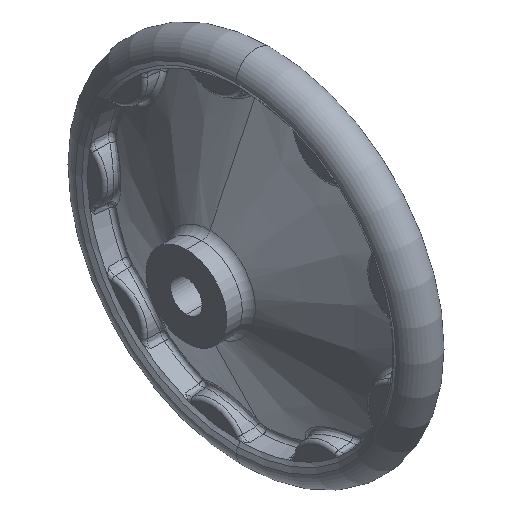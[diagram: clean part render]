
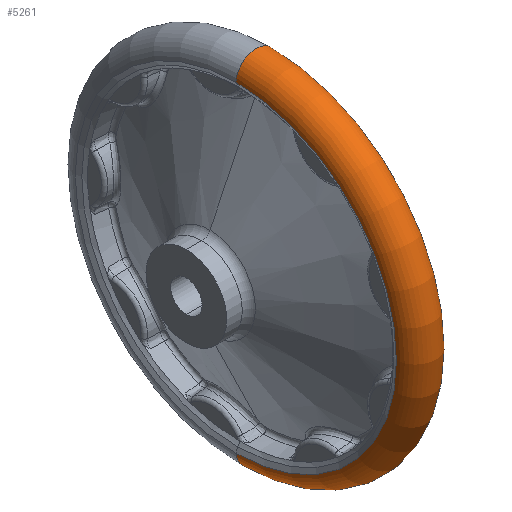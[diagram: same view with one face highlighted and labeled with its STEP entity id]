
A CAD part, isometric view. The second image highlights one B-rep face of the part: STEP entity #5261.
In plain terms, the highlighted toroidal (fillet/blend) face has major radius 71 mm and minor radius 9 mm.
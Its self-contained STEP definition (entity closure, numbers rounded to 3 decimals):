
#230 = DIRECTION ( 'NONE',  ( 0., 1., 0. ) ) ;
#539 = DIRECTION ( 'NONE',  ( 0., -1., 0. ) ) ;
#547 = ORIENTED_EDGE ( 'NONE', *, *, #2757, .T. ) ;
#584 = EDGE_CURVE ( 'NONE', #2185, #1697, #1745, .T. ) ;
#710 = DIRECTION ( 'NONE',  ( -1., 0., 0. ) ) ;
#777 = DIRECTION ( 'NONE',  ( 0., 0., 1. ) ) ;
#946 = EDGE_CURVE ( 'NONE', #2788, #1697, #1751, .T. ) ;
#1158 = CIRCLE ( 'NONE', #4950, 9. ) ;
#1499 = CARTESIAN_POINT ( 'NONE',  ( 40., 0., -71. ) ) ;
#1537 = FACE_OUTER_BOUND ( 'NONE', #4890, .T. ) ;
#1697 = VERTEX_POINT ( 'NONE', #4506 ) ;
#1745 = CIRCLE ( 'NONE', #3044, 9. ) ;
#1751 = CIRCLE ( 'NONE', #3175, 71.5 ) ;
#1877 = ORIENTED_EDGE ( 'NONE', *, *, #946, .F. ) ;
#1937 = CARTESIAN_POINT ( 'NONE',  ( 22.014, 0., 0. ) ) ;
#1972 = AXIS2_PLACEMENT_3D ( 'NONE', #5859, #710, #777 ) ;
#2185 = VERTEX_POINT ( 'NONE', #6151 ) ;
#2244 = ORIENTED_EDGE ( 'NONE', *, *, #5100, .F. ) ;
#2757 = EDGE_CURVE ( 'NONE', #6204, #2185, #4699, .T. ) ;
#2788 = VERTEX_POINT ( 'NONE', #5463 ) ;
#3015 = ORIENTED_EDGE ( 'NONE', *, *, #584, .T. ) ;
#3044 = AXIS2_PLACEMENT_3D ( 'NONE', #3855, #539, #5591 ) ;
#3175 = AXIS2_PLACEMENT_3D ( 'NONE', #1937, #4206, #4838 ) ;
#3855 = CARTESIAN_POINT ( 'NONE',  ( 31., 0., 71. ) ) ;
#3940 = CARTESIAN_POINT ( 'NONE',  ( 31., 0., 0. ) ) ;
#4206 = DIRECTION ( 'NONE',  ( -1., 0., 0. ) ) ;
#4506 = CARTESIAN_POINT ( 'NONE',  ( 22.014, 0., 71.5 ) ) ;
#4699 = CIRCLE ( 'NONE', #1972, 71. ) ;
#4838 = DIRECTION ( 'NONE',  ( 0., 0., 1. ) ) ;
#4890 = EDGE_LOOP ( 'NONE', ( #2244, #547, #3015, #1877 ) ) ;
#4950 = AXIS2_PLACEMENT_3D ( 'NONE', #6899, #230, #5321 ) ;
#5100 = EDGE_CURVE ( 'NONE', #6204, #2788, #1158, .T. ) ;
#5261 = ADVANCED_FACE ( 'NONE', ( #1537 ), #7078, .T. ) ;
#5321 = DIRECTION ( 'NONE',  ( 0., 0., 1. ) ) ;
#5463 = CARTESIAN_POINT ( 'NONE',  ( 22.014, 0., -71.5 ) ) ;
#5591 = DIRECTION ( 'NONE',  ( 0., 0., -1. ) ) ;
#5859 = CARTESIAN_POINT ( 'NONE',  ( 40., 0., 0. ) ) ;
#6129 = AXIS2_PLACEMENT_3D ( 'NONE', #3940, #7328, #6225 ) ;
#6151 = CARTESIAN_POINT ( 'NONE',  ( 40., 0., 71. ) ) ;
#6204 = VERTEX_POINT ( 'NONE', #1499 ) ;
#6225 = DIRECTION ( 'NONE',  ( 0., 0., 1. ) ) ;
#6899 = CARTESIAN_POINT ( 'NONE',  ( 31., 0., -71. ) ) ;
#7078 = TOROIDAL_SURFACE ( 'NONE', #6129, 71., 9. ) ;
#7328 = DIRECTION ( 'NONE',  ( -1., 0., 0. ) ) ;
